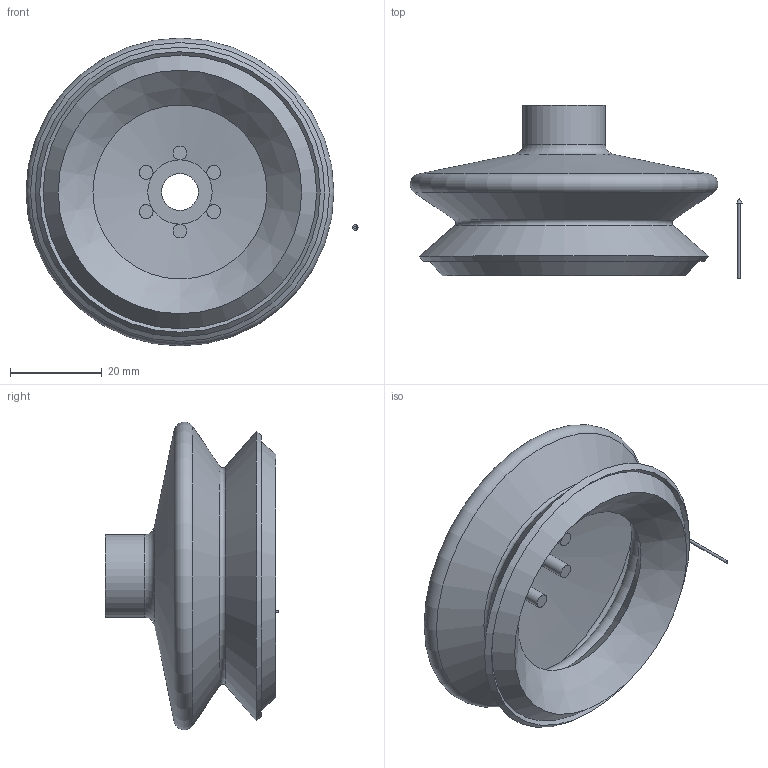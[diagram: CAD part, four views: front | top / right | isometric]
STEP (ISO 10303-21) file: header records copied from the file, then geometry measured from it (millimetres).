
FILE_DESCRIPTION(('STEP AP214'),'1');
FILE_NAME('CA.08.26.D63.AS.stp','2019-04-17T13:03:19',(' '),(' '),'Spatial InterOp 3D',' ',' ');
FILE_SCHEMA(('AUTOMOTIVE_DESIGN { 1 0 10303 214 1 1 1 1 }'));
Length unit declared in the file: millimetre
Products named in the file (4): CA.08.26.D63.AS; FRECCIA.17.5; 08.26.D63; 08.26.D63.AS
Assembly tree (3 placements, depth 2):
  CA.08.26.D63.AS
    FRECCIA.17.5
    08.26.D63
    08.26.D63.AS
Bounding box: 72.24 x 37.79 x 67 mm (x, y, z)
Volume: 23665.1 mm3; surface area: 21746.7 mm2
Topology: 3 solids, 3 shells, 36 faces, 76 edges, 44 vertices
Faces by surface type: cone 12, plane 10, cylinder 9, torus 5
Full cylindrical faces by diameter (mm): 0.6 x1, 3 x6, 8 x1, 18 x1
Entity records: 1409 total; most frequent: CARTESIAN_POINT 417, DIRECTION 148, ORIENTED_EDGE 80, AXIS2_PLACEMENT_3D 74, EDGE_LOOP 64, FACE_OUTER_BOUND 50, EDGE_CURVE 40, STYLED_ITEM 36
